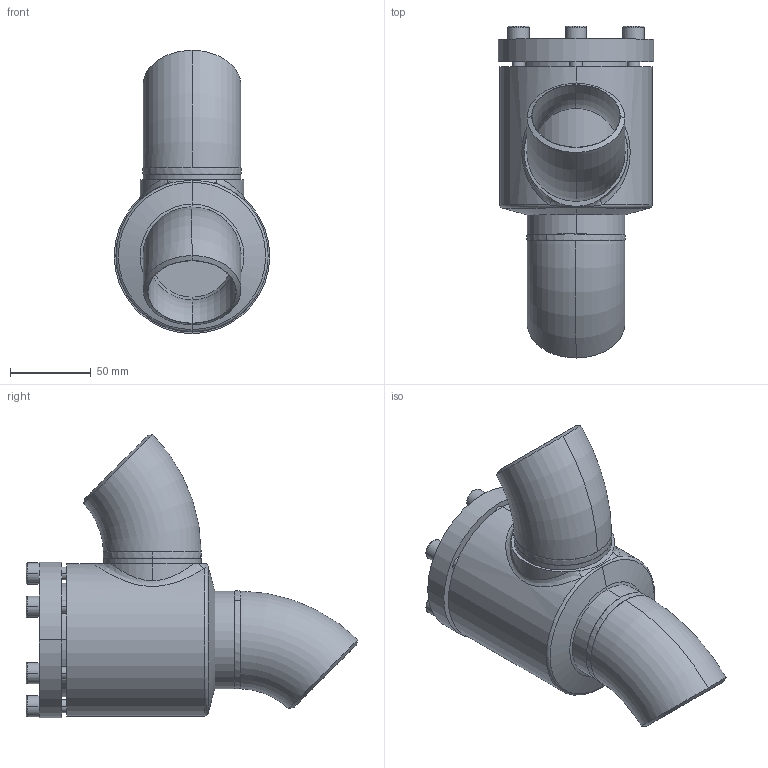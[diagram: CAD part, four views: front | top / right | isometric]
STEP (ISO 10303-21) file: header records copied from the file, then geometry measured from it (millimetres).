
FILE_DESCRIPTION (( 'STEP AP214' ), '1' );
FILE_NAME ('RV28300D15-DN050_R1_PS40.STEP', '2006-04-28T05:15:23', ( 'Herr Grams' ), ( 'AWP GmbH' ), 'SwSTEP 2.0', 'SolidWorks 2002296', '' );
FILE_SCHEMA (( 'AUTOMOTIVE_DESIGN' ));
Length unit declared in the file: millimetre
Products named in the file (9): RV28300D15-DN050_R1_PS40; RV28300E15_Deck+Schr-DN40-50_Standard; Deckel28300E15-DN40-50_Standard; Zylinderschraube-DIN912_M 8x 25; Gehäuse-kpl16300-DN050_R1_Standard; Gehäuse16300-DN050_Standard; bead16300-Geh-050-2_Standard; bead16300-Geh-050-1_Standard; Rohrbogen 45°_R1-Fase_Rohrbogen-DN050-45°
Assembly tree (14 placements, depth 3):
  RV28300D15-DN050_R1_PS40
    Gehäuse-kpl16300-DN050_R1_Standard
      Gehäuse16300-DN050_Standard
      Rohrbogen 45°_R1-Fase_Rohrbogen-DN050-45°  x2
      bead16300-Geh-050-1_Standard
      bead16300-Geh-050-2_Standard
    RV28300E15_Deck+Schr-DN40-50_Standard
      Zylinderschraube-DIN912_M 8x 25  x6
      Deckel28300E15-DN40-50_Standard
Bounding box: 96 x 204.93 x 174.93 mm (x, y, z)
Volume: 600401.5 mm3; surface area: 148943.7 mm2
Topology: 12 solids, 12 shells, 209 faces, 465 edges, 293 vertices
Faces by surface type: plane 75, cylinder 61, cone 40, torus 22, bspline 11
Entity records: 33185 total; most frequent: CARTESIAN_POINT 30206, DIRECTION 540, ORIENTED_EDGE 506, EDGE_CURVE 253, AXIS2_PLACEMENT_3D 228, VERTEX_POINT 159, EDGE_LOOP 134, CIRCLE 111
